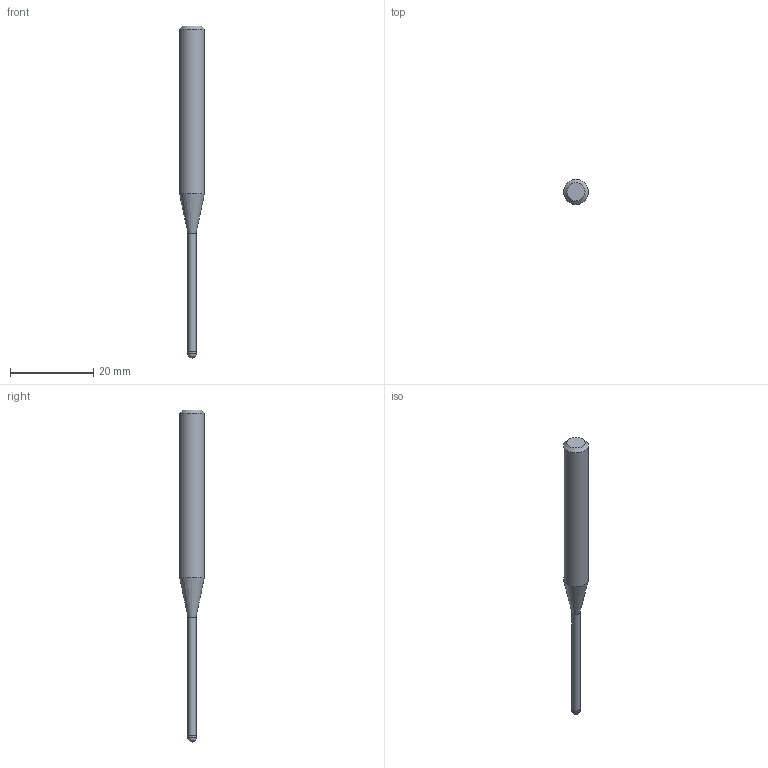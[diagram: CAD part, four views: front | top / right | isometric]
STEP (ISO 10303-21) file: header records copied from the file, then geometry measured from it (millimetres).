
FILE_DESCRIPTION((''),'2;1');
FILE_NAME('C:\Users\nsx150\AppData\Local\Temp\Mastercam 2021\3SYKECWX22\TEMP.step','2021-04-22T10:04:28',(''),(''),'STEP Write','Mastercam 2021 ... CNC Software, Inc.','');
FILE_SCHEMA(('AUTOMOTIVE_DESIGN'));
Length unit declared in the file: millimetre
Products named in the file (1): None
Bounding box: 6 x 6 x 80 mm (x, y, z)
Volume: 1354.6 mm3; surface area: 1092.1 mm2
Topology: 2 solids, 2 shells, 9 faces, 14 edges, 8 vertices
Faces by surface type: plane 3, cylinder 3, cone 2, sphere 1
Full cylindrical faces by diameter (mm): 1.94 x1, 2 x1, 6 x1
Entity records: 211 total; most frequent: DIRECTION 36, CARTESIAN_POINT 25, AXIS2_PLACEMENT_3D 18, ORIENTED_EDGE 14, EDGE_LOOP 14, STYLED_ITEM 12, ADVANCED_FACE 9, FACE_BOUND 8
